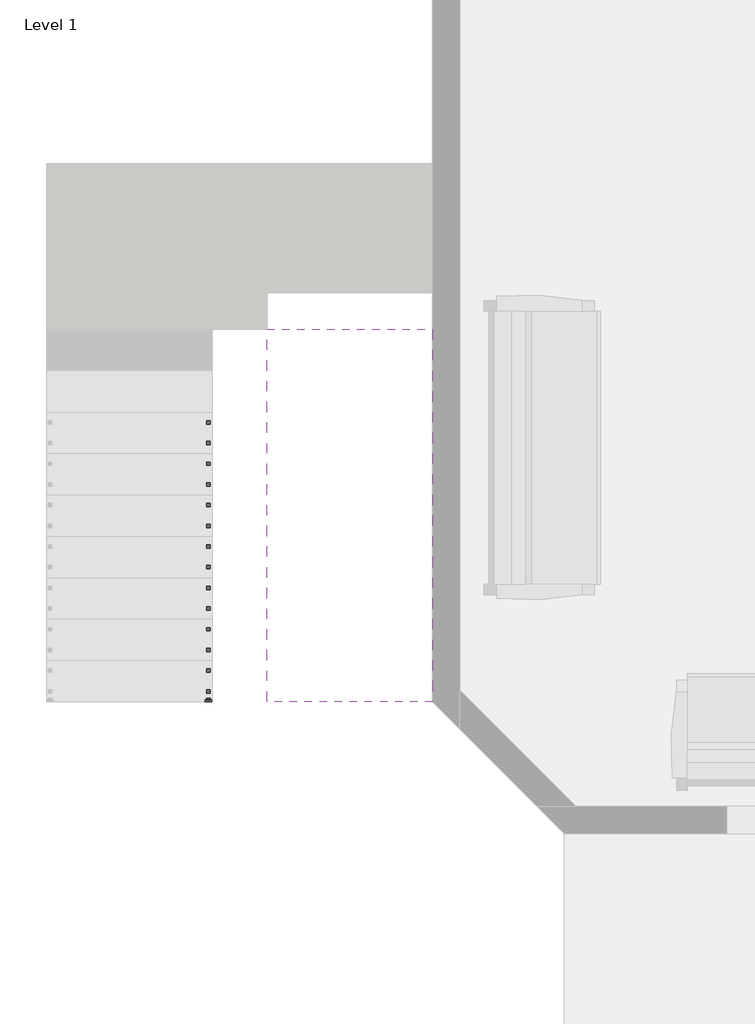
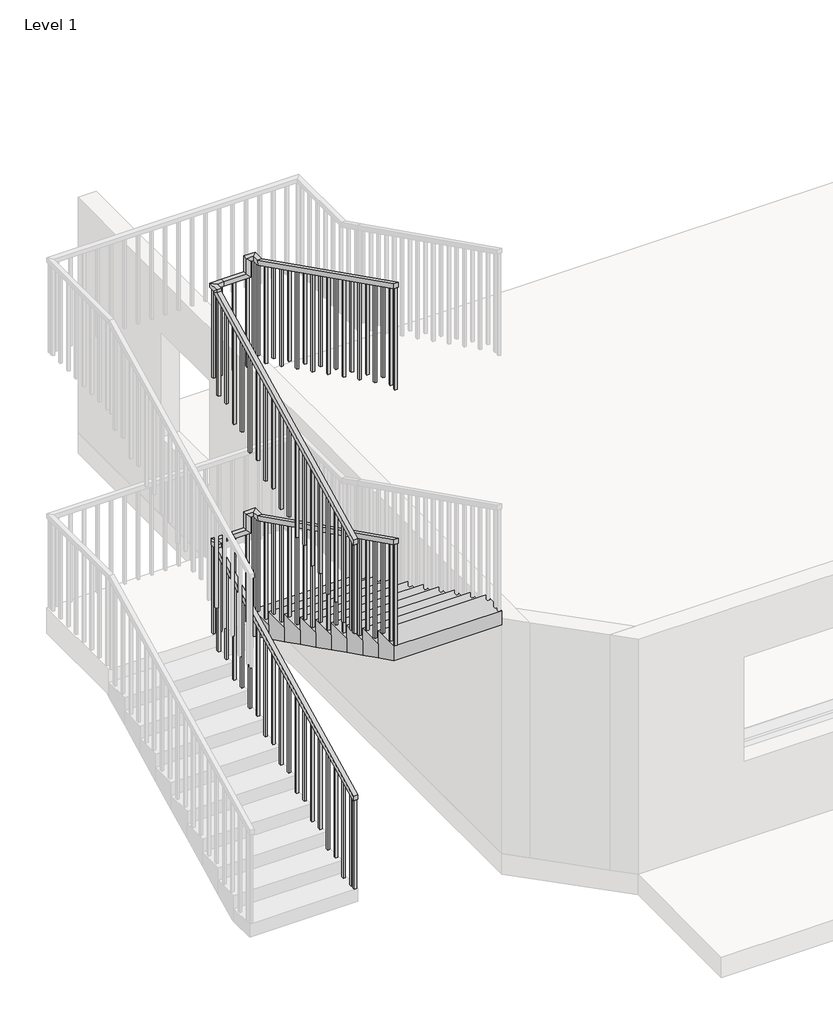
# One storey, part 2 of 4: 1 railing, 1 stair flight.
"""IFC4 building model written with IfcOpenShell, lengths in millimetres."""

import ifcopenshell
import ifcopenshell.guid

model = None  # the IFC model being written
_history = None  # IfcOwnerHistory: only IFC2X3 demands one
_inside = {}  # id of a spatial element -> (the spatial element, [elements in it])
_under = {}  # id of a project, library or spatial element -> (it, [spatial elements below it])
_declared = {}  # id of a project -> (the project, [libraries it declares])
_typed = {}  # id of a type object -> (the type object, [elements of that type])
_made_of = {}  # id of a material, layer set ... -> (it, [elements and type objects made of it])


def new_model(schema):
    """Start an empty IFC model of exactly this schema.

    Asked for "IFC4X3", IfcOpenShell would pick the latest addendum, in which some entities
    have other attributes; the version numbers below select the first issue.
    IFC2X3 requires an IfcOwnerHistory on every rooted entity: one is made here for all.
    """
    global model, _history
    if schema == "IFC4X3":
        model = ifcopenshell.file(schema_version=(4, 3, 0, 0))
    else:
        model = ifcopenshell.file(schema=schema)
    _inside.clear()
    _under.clear()
    _declared.clear()
    _typed.clear()
    _made_of.clear()
    _history = None
    if model.schema == "IFC2X3":
        org = make("IfcOrganization", Name="unknown")
        user = make(
            "IfcPersonAndOrganization",
            ThePerson=make("IfcPerson", FamilyName="unknown"),
            TheOrganization=org,
        )
        app = make(
            "IfcApplication",
            ApplicationDeveloper=org,
            Version="unknown",
            ApplicationFullName="unknown",
            ApplicationIdentifier="unknown",
        )
        _history = make(
            "IfcOwnerHistory",
            OwningUser=user,
            OwningApplication=app,
            ChangeAction="ADDED",
            CreationDate=0,
        )
    return model


def make(cls, **values):
    """One entity of the class cls with the attributes given. An attribute that is None is left unset."""
    return model.create_entity(
        cls, **{name: value for name, value in values.items() if value is not None}
    )


def rooted(cls, **values):
    """An entity with a GlobalId (a new one), such as an element, a storey or a relation."""
    return make(cls, GlobalId=ifcopenshell.guid.new(), OwnerHistory=_history, **values)


def si_unit(unit_type, name, prefix=None):
    """IfcSIUnit, for example si_unit("LENGTHUNIT", "METRE", prefix="MILLI")."""
    return make("IfcSIUnit", UnitType=unit_type, Prefix=prefix, Name=name)


def assignment(units):
    """IfcUnitAssignment: the units of a project."""
    return None if units is None else make("IfcUnitAssignment", Units=units)


def point(xyz):
    """IfcCartesianPoint."""
    return None if xyz is None else make("IfcCartesianPoint", Coordinates=xyz)


def direction(xyz):
    """IfcDirection."""
    return None if xyz is None else make("IfcDirection", DirectionRatios=xyz)


def frame(location, z_axis=None, x_axis=None):
    """IfcAxis2Placement3D, a coordinate frame: its origin and axes. An axis left out is left unset."""
    return make(
        "IfcAxis2Placement3D",
        Location=point(location),
        Axis=direction(z_axis),
        RefDirection=direction(x_axis),
    )


def origin():
    """The frame at (0, 0, 0) with its axes left unset."""
    return frame((0.0, 0.0, 0.0))


def place(relative_to, where):
    """IfcLocalPlacement: puts the frame where relative to a parent placement (None: the world)."""
    return make(
        "IfcLocalPlacement", PlacementRelTo=relative_to, RelativePlacement=where
    )


def context(
    kind, dimensions, precision=None, world=None, true_north=None, identifier=None
):
    """IfcGeometricRepresentationContext, for example the 3D "Model" context."""
    return make(
        "IfcGeometricRepresentationContext",
        ContextIdentifier=identifier,
        ContextType=kind,
        CoordinateSpaceDimension=dimensions,
        Precision=precision,
        WorldCoordinateSystem=world,
        TrueNorth=true_north,
    )


def project(units=None, contexts=None):
    """IfcProject with its units and contexts."""
    return rooted(
        "IfcProject",
        Name="project",
        RepresentationContexts=contexts,
        UnitsInContext=assignment(units),
    )


def spatial(cls, under=None, at=None, **own):
    """A site, building, storey or space (cls), placed at a placement, below another one or the project."""
    s = rooted(cls, ObjectPlacement=at, **own)
    if under is not None:
        _under.setdefault(under.id(), (under, []))[1].append(s)
    return s


def polyline(points):
    """IfcPolyline through the points."""
    return make("IfcPolyline", Points=[point(p) for p in points])


def outline(outer, holes=None, kind="AREA"):
    """IfcArbitraryClosedProfileDef: a profile drawn as a closed curve; with holes, ...WithVoids."""
    if holes is None:
        return make("IfcArbitraryClosedProfileDef", ProfileType=kind, OuterCurve=outer)
    return make(
        "IfcArbitraryProfileDefWithVoids",
        ProfileType=kind,
        OuterCurve=outer,
        InnerCurves=holes,
    )


def extrude(swept, where, along, depth):
    """IfcExtrudedAreaSolid: the profile swept, set in the frame where, extruded along a direction by depth."""
    return make(
        "IfcExtrudedAreaSolid",
        SweptArea=swept,
        Position=where,
        ExtrudedDirection=direction(along),
        Depth=depth,
    )


def faces_of(points, faces, orient=None, outer=None):
    """IfcFace entities. A face is a list of loops; a loop is a list of indices into points, from 0.

    orient and outer hold one flag for each loop. By default every Orientation is true, the
    first loop of a face is its IfcFaceOuterBound and the others are IfcFaceBound.
    """
    made = []
    for i, loops in enumerate(faces):
        bounds = []
        for j, loop in enumerate(loops):
            is_outer = j == 0 if outer is None else outer[i][j]
            bounds.append(
                make(
                    "IfcFaceOuterBound" if is_outer else "IfcFaceBound",
                    Bound=make("IfcPolyLoop", Polygon=[points[k] for k in loop]),
                    Orientation=True if orient is None else orient[i][j],
                )
            )
        made.append(make("IfcFace", Bounds=bounds))
    return made


def faceted_brep(points, faces, orient=None, outer=None, voids=None):
    """IfcFacetedBrep: a solid bounded by flat faces; with voids (closed shells), ...WithVoids."""
    shared = [point(p) for p in points]
    hull = make("IfcClosedShell", CfsFaces=faces_of(shared, faces, orient, outer))
    if voids is None:
        return make("IfcFacetedBrep", Outer=hull)
    return make(
        "IfcFacetedBrepWithVoids",
        Outer=hull,
        Voids=[
            make(cls, CfsFaces=faces_of(shared, fs, o, b)) for cls, fs, o, b in voids
        ],
    )


def shape(context_of_items, identifier, shape_type, items):
    """IfcShapeRepresentation: the items that make up one representation, for example the "Body"."""
    return make(
        "IfcShapeRepresentation",
        ContextOfItems=context_of_items,
        RepresentationIdentifier=identifier,
        RepresentationType=shape_type,
        Items=items,
    )


def made_of(thing, what):
    """Note that an element or type object is made of a material, layer set ...; save() writes the relation."""
    if what is not None:
        _made_of.setdefault(what.id(), (what, []))[1].append(thing)
    return thing


def element(
    cls,
    number,
    at=None,
    inside=None,
    cuts=None,
    type_object=None,
    material=None,
    context=None,
    identifier="Body",
    shape_type=None,
    held_by="IfcProductDefinitionShape",
    body=None,
    shapes=None,
    **own,
):
    """One element of the class cls, such as IfcWall. Its Tag is "e" and its number.

    at: its placement. inside: the storey or other place that contains it. cuts: it is an
    opening in that element (IfcRelVoidsElement). A single representation is given by context,
    identifier, shape_type and body (its items); several are given by shapes. held_by: the class
    of the entity that holds the representations. save() writes the other relations.
    """
    e = rooted(cls, Tag="e%d" % number, ObjectPlacement=at, **own)
    if body is not None:
        shapes = [shape(context, identifier, shape_type, body)]
    if shapes is not None:
        e.Representation = make(held_by, Representations=shapes)
    if inside is not None:
        _inside.setdefault(inside.id(), (inside, []))[1].append(e)
    if cuts is not None:
        rooted(
            "IfcRelVoidsElement", RelatingBuildingElement=cuts, RelatedOpeningElement=e
        )
    if type_object is not None:
        _typed.setdefault(type_object.id(), (type_object, []))[1].append(e)
    return made_of(e, material)


def aggregate(whole, parts):
    """IfcRelAggregates: a whole, such as a stair, and the parts it consists of."""
    return rooted("IfcRelAggregates", RelatingObject=whole, RelatedObjects=parts)


def save(model, path):
    """Write the relations noted so far, then the file.

    IfcRelAggregates (storeys below a building ...), IfcRelContainedInSpatialStructure (elements
    in a storey), IfcRelDefinesByType, IfcRelAssociatesMaterial and IfcRelDeclares: one each for
    every whole, place, type object, material and project.
    """
    for whole, parts in _under.values():
        aggregate(whole, parts)
    for where, things in _inside.values():
        rooted(
            "IfcRelContainedInSpatialStructure",
            RelatedElements=things,
            RelatingStructure=where,
        )
    for kind, things in _typed.values():
        rooted("IfcRelDefinesByType", RelatedObjects=things, RelatingType=kind)
    for what, things in _made_of.values():
        rooted("IfcRelAssociatesMaterial", RelatedObjects=things, RelatingMaterial=what)
    for by, libraries in _declared.values():
        rooted("IfcRelDeclares", RelatingContext=by, RelatedDefinitions=libraries)
    model.write(path)


model = new_model("IFC4")

# Units and contexts
model_context = context("Model", 3, world=origin())
ifc_project = project(units=[si_unit("LENGTHUNIT", "METRE", prefix="MILLI")], contexts=[model_context])

# Site, building, storey
site = spatial("IfcSite", under=ifc_project)
building = spatial("IfcBuilding", under=site)
storey = spatial("IfcBuildingStorey", under=building, Name="Level 1", Elevation=0.0)

# Railing
placement = place(None, origin())
element("IfcRailing", 1, ObjectType="1100mm", at=placement, inside=storey, context=model_context, shape_type="SolidModel", body=[
    faceted_brep([(-19013.3123896, -3896.853789, 4250.0000003), (-19013.3123896, -3896.853789, 4194.0983009), (-18963.3123896, -3896.853789, 4194.0983009), (-18963.3123896, -3896.853789, 4250.0000003), (-19013.3123896, -1271.453789, 5562.7000003), (-19013.3123896, -1221.453789, 5531.7983009), (-18963.3123896, -1221.453789, 5531.7983009), (-18963.3123896, -1271.453789, 5562.7000003), (-19013.3123896, -1271.453789, 5600.0000003), (-19013.3123896, -1221.453789, 5550.0000003), (-18963.3123896, -1221.453789, 5550.0000003), (-18963.3123896, -1271.453789, 5600.0000003), (-19013.3123896, -1146.453789, 5600.0000003), (-19013.3123896, -1146.453789, 5550.0000003), (-18963.3123896, -1196.453789, 5550.0000003), (-18963.3123896, -1196.453789, 5600.0000003), (-18888.3123896, -1146.453789, 5600.0000003), (-18888.3123896, -1146.453789, 5550.0000003), (-18888.3123896, -1196.453789, 5550.0000003), (-18888.3123896, -1196.453789, 5600.0000003), (-18637.5123896, -1146.453789, 5600.0000003), (-18587.5123896, -1146.453789, 5550.0000003), (-18587.5123896, -1196.453789, 5550.0000003), (-18637.5123896, -1196.453789, 5600.0000003), (-18637.5123896, -1146.453789, 5787.3000003), (-18587.5123896, -1146.453789, 5737.3000003), (-18587.5123896, -1196.453789, 5737.3000003), (-18637.5123896, -1196.453789, 5787.3000003), (-18512.5123896, -1146.453789, 5787.3000003), (-18512.5123896, -1146.453789, 5737.3000003), (-18562.5123896, -1196.453789, 5737.3000003), (-18562.5123896, -1196.453789, 5787.3000003), (-18512.5123896, -1271.453789, 5787.3000003), (-18512.5123896, -1283.2571879, 5737.3000003), (-18562.5123896, -1283.2571879, 5737.3000003), (-18562.5123896, -1271.453789, 5787.3000003), (-18512.5123896, -3896.853789, 7100.0000003), (-18562.5123896, -3896.853789, 7100.0000003), (-18562.5123896, -3896.853789, 7044.0983009), (-18512.5123896, -3896.853789, 7044.0983009)], [[[0, 1, 2, 3]], [[1, 0, 4, 5]], [[2, 1, 5, 6]], [[3, 2, 6, 7]], [[0, 3, 7, 4]], [[5, 4, 8, 9]], [[6, 5, 9, 10]], [[7, 6, 10, 11]], [[4, 7, 11, 8]], [[9, 8, 12, 13]], [[10, 9, 13, 14]], [[11, 10, 14, 15]], [[8, 11, 15, 12]], [[13, 12, 16, 17]], [[14, 13, 17, 18]], [[15, 14, 18, 19]], [[12, 15, 19, 16]], [[17, 16, 20, 21]], [[18, 17, 21, 22]], [[19, 18, 22, 23]], [[16, 19, 23, 20]], [[21, 20, 24, 25]], [[22, 21, 25, 26]], [[23, 22, 26, 27]], [[20, 23, 27, 24]], [[25, 24, 28, 29]], [[26, 25, 29, 30]], [[27, 26, 30, 31]], [[24, 27, 31, 28]], [[29, 28, 32, 33]], [[30, 29, 33, 34]], [[31, 30, 34, 35]], [[28, 31, 35, 32]], [[36, 37, 38, 39]], [[33, 32, 36, 39]], [[34, 33, 39, 38]], [[35, 34, 38, 37]], [[32, 35, 37, 36]]]),
    extrude(outline(polyline([(-3783.953789, 6987.6483009), (-3783.953789, 5850.0000003), (-3808.953789, 5850.0000003), (-3808.953789, 7000.1483009), (-3783.953789, 6987.6483009)])), frame((-18550.0123896, 0.0, 0.0), z_axis=(1.0, 0.0, 0.0), x_axis=(0.0, 1.0, 0.0)), (0.0, 0.0, 1.0), 25.0),
    extrude(outline(polyline([(-3633.953789, 6912.6483009), (-3633.953789, 5850.0000003), (-3658.953789, 5850.0000003), (-3658.953789, 6925.1483009), (-3633.953789, 6912.6483009)])), frame((-18550.0123896, 0.0, 0.0), z_axis=(1.0, 0.0, 0.0), x_axis=(0.0, 1.0, 0.0)), (0.0, 0.0, 1.0), 25.0),
    extrude(outline(polyline([(-3483.953789, 6837.6483009), (-3483.953789, 5700.0000003), (-3508.953789, 5700.0000003), (-3508.953789, 6850.1483009), (-3483.953789, 6837.6483009)])), frame((-18550.0123896, 0.0, 0.0), z_axis=(1.0, 0.0, 0.0), x_axis=(0.0, 1.0, 0.0)), (0.0, 0.0, 1.0), 25.0),
    extrude(outline(polyline([(-3333.953789, 6762.6483009), (-3333.953789, 5700.0000003), (-3358.953789, 5700.0000003), (-3358.953789, 6775.1483009), (-3333.953789, 6762.6483009)])), frame((-18550.0123896, 0.0, 0.0), z_axis=(1.0, 0.0, 0.0), x_axis=(0.0, 1.0, 0.0)), (0.0, 0.0, 1.0), 25.0),
    extrude(outline(polyline([(-3183.953789, 6687.6483009), (-3183.953789, 5550.0000003), (-3208.953789, 5550.0000003), (-3208.953789, 6700.1483009), (-3183.953789, 6687.6483009)])), frame((-18550.0123896, 0.0, 0.0), z_axis=(1.0, 0.0, 0.0), x_axis=(0.0, 1.0, 0.0)), (0.0, 0.0, 1.0), 25.0),
    extrude(outline(polyline([(-3033.953789, 6612.6483009), (-3033.953789, 5550.0000003), (-3058.953789, 5550.0000003), (-3058.953789, 6625.1483009), (-3033.953789, 6612.6483009)])), frame((-18550.0123896, 0.0, 0.0), z_axis=(1.0, 0.0, 0.0), x_axis=(0.0, 1.0, 0.0)), (0.0, 0.0, 1.0), 25.0),
    extrude(outline(polyline([(-2883.953789, 6537.6483009), (-2883.953789, 5400.0000003), (-2908.953789, 5400.0000003), (-2908.953789, 6550.1483009), (-2883.953789, 6537.6483009)])), frame((-18550.0123896, 0.0, 0.0), z_axis=(1.0, 0.0, 0.0), x_axis=(0.0, 1.0, 0.0)), (0.0, 0.0, 1.0), 25.0),
    extrude(outline(polyline([(-2733.953789, 6462.6483009), (-2733.953789, 5400.0000003), (-2758.953789, 5400.0000003), (-2758.953789, 6475.1483009), (-2733.953789, 6462.6483009)])), frame((-18550.0123896, 0.0, 0.0), z_axis=(1.0, 0.0, 0.0), x_axis=(0.0, 1.0, 0.0)), (0.0, 0.0, 1.0), 25.0),
    extrude(outline(polyline([(-2583.953789, 6387.6483009), (-2583.953789, 5250.0000003), (-2608.953789, 5250.0000003), (-2608.953789, 6400.1483009), (-2583.953789, 6387.6483009)])), frame((-18550.0123896, 0.0, 0.0), z_axis=(1.0, 0.0, 0.0), x_axis=(0.0, 1.0, 0.0)), (0.0, 0.0, 1.0), 25.0),
    extrude(outline(polyline([(-2433.953789, 6312.6483009), (-2433.953789, 5250.0000003), (-2458.953789, 5250.0000003), (-2458.953789, 6325.1483009), (-2433.953789, 6312.6483009)])), frame((-18550.0123896, 0.0, 0.0), z_axis=(1.0, 0.0, 0.0), x_axis=(0.0, 1.0, 0.0)), (0.0, 0.0, 1.0), 25.0),
    extrude(outline(polyline([(-2283.953789, 6237.6483009), (-2283.953789, 5100.0000003), (-2308.953789, 5100.0000003), (-2308.953789, 6250.1483009), (-2283.953789, 6237.6483009)])), frame((-18550.0123896, 0.0, 0.0), z_axis=(1.0, 0.0, 0.0), x_axis=(0.0, 1.0, 0.0)), (0.0, 0.0, 1.0), 25.0),
    extrude(outline(polyline([(-2133.953789, 6162.6483009), (-2133.953789, 5100.0000003), (-2158.953789, 5100.0000003), (-2158.953789, 6175.1483009), (-2133.953789, 6162.6483009)])), frame((-18550.0123896, 0.0, 0.0), z_axis=(1.0, 0.0, 0.0), x_axis=(0.0, 1.0, 0.0)), (0.0, 0.0, 1.0), 25.0),
    extrude(outline(polyline([(-1983.953789, 6087.6483009), (-1983.953789, 4950.0000003), (-2008.953789, 4950.0000003), (-2008.953789, 6100.1483009), (-1983.953789, 6087.6483009)])), frame((-18550.0123896, 0.0, 0.0), z_axis=(1.0, 0.0, 0.0), x_axis=(0.0, 1.0, 0.0)), (0.0, 0.0, 1.0), 25.0),
    extrude(outline(polyline([(-1833.953789, 6012.6483009), (-1833.953789, 4950.0000003), (-1858.953789, 4950.0000003), (-1858.953789, 6025.1483009), (-1833.953789, 6012.6483009)])), frame((-18550.0123896, 0.0, 0.0), z_axis=(1.0, 0.0, 0.0), x_axis=(0.0, 1.0, 0.0)), (0.0, 0.0, 1.0), 25.0),
    extrude(outline(polyline([(-1683.953789, 5937.6483009), (-1683.953789, 4800.0000003), (-1708.953789, 4800.0000003), (-1708.953789, 5950.1483009), (-1683.953789, 5937.6483009)])), frame((-18550.0123896, 0.0, 0.0), z_axis=(1.0, 0.0, 0.0), x_axis=(0.0, 1.0, 0.0)), (0.0, 0.0, 1.0), 25.0),
    extrude(outline(polyline([(-1533.953789, 5862.6483009), (-1533.953789, 4800.0000003), (-1558.953789, 4800.0000003), (-1558.953789, 5875.1483009), (-1533.953789, 5862.6483009)])), frame((-18550.0123896, 0.0, 0.0), z_axis=(1.0, 0.0, 0.0), x_axis=(0.0, 1.0, 0.0)), (0.0, 0.0, 1.0), 25.0),
    extrude(outline(polyline([(-1383.953789, 5787.6483009), (-1383.953789, 4650.0000003), (-1408.953789, 4650.0000003), (-1408.953789, 5800.1483009), (-1383.953789, 5787.6483009)])), frame((-18550.0123896, 0.0, 0.0), z_axis=(1.0, 0.0, 0.0), x_axis=(0.0, 1.0, 0.0)), (0.0, 0.0, 1.0), 25.0),
    extrude(outline(polyline([(-18550.0123896, -1233.953789), (-18525.0123896, -1233.953789), (-18525.0123896, -1258.953789), (-18550.0123896, -1258.953789), (-18550.0123896, -1233.953789)])), frame((0.0, 0.0, 4650.0000003), z_axis=(0.0, 0.0, 1.0), x_axis=(1.0, 0.0, 0.0)), (0.0, 0.0, 1.0), 1087.3),
    extrude(outline(polyline([(-18625.8123896, -1183.953789), (-18625.8123896, -1158.953789), (-18600.8123896, -1158.953789), (-18600.8123896, -1183.953789), (-18625.8123896, -1183.953789)])), frame((0.0, 0.0, 4500.0000003), z_axis=(0.0, 0.0, 1.0), x_axis=(1.0, 0.0, 0.0)), (0.0, 0.0, 1.0), 1237.3),
    extrude(outline(polyline([(-18775.8123896, -1183.953789), (-18775.8123896, -1158.953789), (-18750.8123896, -1158.953789), (-18750.8123896, -1183.953789), (-18775.8123896, -1183.953789)])), frame((0.0, 0.0, 4500.0000003), z_axis=(0.0, 0.0, 1.0), x_axis=(1.0, 0.0, 0.0)), (0.0, 0.0, 1.0), 1050.0),
    extrude(outline(polyline([(-18925.8123896, -1183.953789), (-18925.8123896, -1158.953789), (-18900.8123896, -1158.953789), (-18900.8123896, -1183.953789), (-18925.8123896, -1183.953789)])), frame((0.0, 0.0, 4500.0000003), z_axis=(0.0, 0.0, 1.0), x_axis=(1.0, 0.0, 0.0)), (0.0, 0.0, 1.0), 1050.0),
    extrude(outline(polyline([(-1284.353789, 4350.0000003), (-1284.353789, 5500.3483009), (-1259.353789, 5512.8483009), (-1259.353789, 4350.0000003), (-1284.353789, 4350.0000003)])), frame((-19000.8123896, 0.0, 0.0), z_axis=(1.0, 0.0, 0.0), x_axis=(0.0, 1.0, 0.0)), (0.0, 0.0, 1.0), 25.0),
    extrude(outline(polyline([(-1434.353789, 4350.0000003), (-1434.353789, 5425.3483009), (-1409.353789, 5437.8483009), (-1409.353789, 4350.0000003), (-1434.353789, 4350.0000003)])), frame((-19000.8123896, 0.0, 0.0), z_axis=(1.0, 0.0, 0.0), x_axis=(0.0, 1.0, 0.0)), (0.0, 0.0, 1.0), 25.0),
    extrude(outline(polyline([(-1584.353789, 4200.0000003), (-1584.353789, 5350.3483009), (-1559.353789, 5362.8483009), (-1559.353789, 4200.0000003), (-1584.353789, 4200.0000003)])), frame((-19000.8123896, 0.0, 0.0), z_axis=(1.0, 0.0, 0.0), x_axis=(0.0, 1.0, 0.0)), (0.0, 0.0, 1.0), 25.0),
    extrude(outline(polyline([(-1734.353789, 4200.0000003), (-1734.353789, 5275.3483009), (-1709.353789, 5287.8483009), (-1709.353789, 4200.0000003), (-1734.353789, 4200.0000003)])), frame((-19000.8123896, 0.0, 0.0), z_axis=(1.0, 0.0, 0.0), x_axis=(0.0, 1.0, 0.0)), (0.0, 0.0, 1.0), 25.0),
    extrude(outline(polyline([(-1884.353789, 4050.0000003), (-1884.353789, 5200.3483009), (-1859.353789, 5212.8483009), (-1859.353789, 4050.0000003), (-1884.353789, 4050.0000003)])), frame((-19000.8123896, 0.0, 0.0), z_axis=(1.0, 0.0, 0.0), x_axis=(0.0, 1.0, 0.0)), (0.0, 0.0, 1.0), 25.0),
    extrude(outline(polyline([(-2034.353789, 4050.0000003), (-2034.353789, 5125.3483009), (-2009.353789, 5137.8483009), (-2009.353789, 4050.0000003), (-2034.353789, 4050.0000003)])), frame((-19000.8123896, 0.0, 0.0), z_axis=(1.0, 0.0, 0.0), x_axis=(0.0, 1.0, 0.0)), (0.0, 0.0, 1.0), 25.0),
    extrude(outline(polyline([(-2184.353789, 3900.0000003), (-2184.353789, 5050.3483009), (-2159.353789, 5062.8483009), (-2159.353789, 3900.0000003), (-2184.353789, 3900.0000003)])), frame((-19000.8123896, 0.0, 0.0), z_axis=(1.0, 0.0, 0.0), x_axis=(0.0, 1.0, 0.0)), (0.0, 0.0, 1.0), 25.0),
    extrude(outline(polyline([(-2334.353789, 3900.0000003), (-2334.353789, 4975.3483009), (-2309.353789, 4987.8483009), (-2309.353789, 3900.0000003), (-2334.353789, 3900.0000003)])), frame((-19000.8123896, 0.0, 0.0), z_axis=(1.0, 0.0, 0.0), x_axis=(0.0, 1.0, 0.0)), (0.0, 0.0, 1.0), 25.0),
    extrude(outline(polyline([(-2484.353789, 3750.0000003), (-2484.353789, 4900.3483009), (-2459.353789, 4912.8483009), (-2459.353789, 3750.0000003), (-2484.353789, 3750.0000003)])), frame((-19000.8123896, 0.0, 0.0), z_axis=(1.0, 0.0, 0.0), x_axis=(0.0, 1.0, 0.0)), (0.0, 0.0, 1.0), 25.0),
    extrude(outline(polyline([(-2634.353789, 3750.0000003), (-2634.353789, 4825.3483009), (-2609.353789, 4837.8483009), (-2609.353789, 3750.0000003), (-2634.353789, 3750.0000003)])), frame((-19000.8123896, 0.0, 0.0), z_axis=(1.0, 0.0, 0.0), x_axis=(0.0, 1.0, 0.0)), (0.0, 0.0, 1.0), 25.0),
    extrude(outline(polyline([(-2784.353789, 3600.0000003), (-2784.353789, 4750.3483009), (-2759.353789, 4762.8483009), (-2759.353789, 3600.0000003), (-2784.353789, 3600.0000003)])), frame((-19000.8123896, 0.0, 0.0), z_axis=(1.0, 0.0, 0.0), x_axis=(0.0, 1.0, 0.0)), (0.0, 0.0, 1.0), 25.0),
    extrude(outline(polyline([(-2934.353789, 3600.0000003), (-2934.353789, 4675.3483009), (-2909.353789, 4687.8483009), (-2909.353789, 3600.0000003), (-2934.353789, 3600.0000003)])), frame((-19000.8123896, 0.0, 0.0), z_axis=(1.0, 0.0, 0.0), x_axis=(0.0, 1.0, 0.0)), (0.0, 0.0, 1.0), 25.0),
    extrude(outline(polyline([(-3084.353789, 3450.0000003), (-3084.353789, 4600.3483009), (-3059.353789, 4612.8483009), (-3059.353789, 3450.0000003), (-3084.353789, 3450.0000003)])), frame((-19000.8123896, 0.0, 0.0), z_axis=(1.0, 0.0, 0.0), x_axis=(0.0, 1.0, 0.0)), (0.0, 0.0, 1.0), 25.0),
    extrude(outline(polyline([(-3234.353789, 3450.0000003), (-3234.353789, 4525.3483009), (-3209.353789, 4537.8483009), (-3209.353789, 3450.0000003), (-3234.353789, 3450.0000003)])), frame((-19000.8123896, 0.0, 0.0), z_axis=(1.0, 0.0, 0.0), x_axis=(0.0, 1.0, 0.0)), (0.0, 0.0, 1.0), 25.0),
    extrude(outline(polyline([(-3384.353789, 3300.0000003), (-3384.353789, 4450.3483009), (-3359.353789, 4462.8483009), (-3359.353789, 3300.0000003), (-3384.353789, 3300.0000003)])), frame((-19000.8123896, 0.0, 0.0), z_axis=(1.0, 0.0, 0.0), x_axis=(0.0, 1.0, 0.0)), (0.0, 0.0, 1.0), 25.0),
    extrude(outline(polyline([(-3534.353789, 3300.0000003), (-3534.353789, 4375.3483009), (-3509.353789, 4387.8483009), (-3509.353789, 3300.0000003), (-3534.353789, 3300.0000003)])), frame((-19000.8123896, 0.0, 0.0), z_axis=(1.0, 0.0, 0.0), x_axis=(0.0, 1.0, 0.0)), (0.0, 0.0, 1.0), 25.0),
    extrude(outline(polyline([(-3684.353789, 3150.0000003), (-3684.353789, 4300.3483009), (-3659.353789, 4312.8483009), (-3659.353789, 3150.0000003), (-3684.353789, 3150.0000003)])), frame((-19000.8123896, 0.0, 0.0), z_axis=(1.0, 0.0, 0.0), x_axis=(0.0, 1.0, 0.0)), (0.0, 0.0, 1.0), 25.0),
    extrude(outline(polyline([(-3834.353789, 3150.0000003), (-3834.353789, 4225.3483009), (-3809.353789, 4237.8483009), (-3809.353789, 3150.0000003), (-3834.353789, 3150.0000003)])), frame((-19000.8123896, 0.0, 0.0), z_axis=(1.0, 0.0, 0.0), x_axis=(0.0, 1.0, 0.0)), (0.0, 0.0, 1.0), 25.0),
    extrude(outline(polyline([(-18550.0123896, -1183.953789), (-18550.0123896, -1158.953789), (-18525.0123896, -1158.953789), (-18525.0123896, -1183.953789), (-18550.0123896, -1183.953789)])), frame((0.0, 0.0, 4500.0000003), z_axis=(0.0, 0.0, 1.0), x_axis=(1.0, 0.0, 0.0)), (0.0, 0.0, 1.0), 1237.3),
    extrude(outline(polyline([(-18975.8123896, -1183.953789), (-19000.8123896, -1183.953789), (-19000.8123896, -1158.953789), (-18975.8123896, -1158.953789), (-18975.8123896, -1183.953789)])), frame((0.0, 0.0, 4500.0000003), z_axis=(0.0, 0.0, 1.0), x_axis=(1.0, 0.0, 0.0)), (0.0, 0.0, 1.0), 1050.0),
    extrude(outline(polyline([(-3871.853789, 7031.5983009), (-3871.853789, 5850.0000003), (-3896.853789, 5850.0000003), (-3896.853789, 7044.0983009), (-3871.853789, 7031.5983009)])), frame((-18550.0123896, 0.0, 0.0), z_axis=(1.0, 0.0, 0.0), x_axis=(0.0, 1.0, 0.0)), (0.0, 0.0, 1.0), 25.0),
    extrude(outline(polyline([(-3896.853789, 3150.0000003), (-3896.853789, 4194.0983009), (-3871.853789, 4206.5983009), (-3871.853789, 3150.0000003), (-3896.853789, 3150.0000003)])), frame((-19000.8123896, 0.0, 0.0), z_axis=(1.0, 0.0, 0.0), x_axis=(0.0, 1.0, 0.0)), (0.0, 0.0, 1.0), 25.0),
    faceted_brep([(-19013.3123896, -3896.853789, 1250.0), (-19013.3123896, -3896.853789, 1194.0983006), (-18963.3123896, -3896.853789, 1194.0983006), (-18963.3123896, -3896.853789, 1250.0), (-19013.3123896, -1271.453789, 2562.7), (-19013.3123896, -1221.453789, 2531.7983006), (-18963.3123896, -1221.453789, 2531.7983006), (-18963.3123896, -1271.453789, 2562.7), (-19013.3123896, -1271.453789, 2600.0), (-19013.3123896, -1221.453789, 2550.0), (-18963.3123896, -1221.453789, 2550.0), (-18963.3123896, -1271.453789, 2600.0), (-19013.3123896, -1146.453789, 2600.0), (-19013.3123896, -1146.453789, 2550.0), (-18963.3123896, -1196.453789, 2550.0), (-18963.3123896, -1196.453789, 2600.0), (-18888.3123896, -1146.453789, 2600.0), (-18888.3123896, -1146.453789, 2550.0), (-18888.3123896, -1196.453789, 2550.0), (-18888.3123896, -1196.453789, 2600.0), (-18637.5123896, -1146.453789, 2600.0), (-18587.5123896, -1146.453789, 2550.0), (-18587.5123896, -1196.453789, 2550.0), (-18637.5123896, -1196.453789, 2600.0), (-18637.5123896, -1146.453789, 2787.3), (-18587.5123896, -1146.453789, 2737.3), (-18587.5123896, -1196.453789, 2737.3), (-18637.5123896, -1196.453789, 2787.3), (-18512.5123896, -1146.453789, 2787.3), (-18512.5123896, -1146.453789, 2737.3), (-18562.5123896, -1196.453789, 2737.3), (-18562.5123896, -1196.453789, 2787.3), (-18512.5123896, -1271.453789, 2787.3), (-18512.5123896, -1283.2571879, 2737.3), (-18562.5123896, -1283.2571879, 2737.3), (-18562.5123896, -1271.453789, 2787.3), (-18512.5123896, -3896.853789, 4100.0), (-18562.5123896, -3896.853789, 4100.0), (-18562.5123896, -3896.853789, 4044.0983006), (-18512.5123896, -3896.853789, 4044.0983006)], [[[0, 1, 2, 3]], [[1, 0, 4, 5]], [[2, 1, 5, 6]], [[3, 2, 6, 7]], [[0, 3, 7, 4]], [[5, 4, 8, 9]], [[6, 5, 9, 10]], [[7, 6, 10, 11]], [[4, 7, 11, 8]], [[9, 8, 12, 13]], [[10, 9, 13, 14]], [[11, 10, 14, 15]], [[8, 11, 15, 12]], [[13, 12, 16, 17]], [[14, 13, 17, 18]], [[15, 14, 18, 19]], [[12, 15, 19, 16]], [[17, 16, 20, 21]], [[18, 17, 21, 22]], [[19, 18, 22, 23]], [[16, 19, 23, 20]], [[21, 20, 24, 25]], [[22, 21, 25, 26]], [[23, 22, 26, 27]], [[20, 23, 27, 24]], [[25, 24, 28, 29]], [[26, 25, 29, 30]], [[27, 26, 30, 31]], [[24, 27, 31, 28]], [[29, 28, 32, 33]], [[30, 29, 33, 34]], [[31, 30, 34, 35]], [[28, 31, 35, 32]], [[36, 37, 38, 39]], [[33, 32, 36, 39]], [[34, 33, 39, 38]], [[35, 34, 38, 37]], [[32, 35, 37, 36]]]),
    extrude(outline(polyline([(-3783.953789, 3987.6483006), (-3783.953789, 2850.0), (-3808.953789, 2850.0), (-3808.953789, 4000.1483006), (-3783.953789, 3987.6483006)])), frame((-18550.0123896, 0.0, 0.0), z_axis=(1.0, 0.0, 0.0), x_axis=(0.0, 1.0, 0.0)), (0.0, 0.0, 1.0), 25.0),
    extrude(outline(polyline([(-3633.953789, 3912.6483006), (-3633.953789, 2850.0), (-3658.953789, 2850.0), (-3658.953789, 3925.1483006), (-3633.953789, 3912.6483006)])), frame((-18550.0123896, 0.0, 0.0), z_axis=(1.0, 0.0, 0.0), x_axis=(0.0, 1.0, 0.0)), (0.0, 0.0, 1.0), 25.0),
    extrude(outline(polyline([(-3483.953789, 3837.6483006), (-3483.953789, 2700.0), (-3508.953789, 2700.0), (-3508.953789, 3850.1483006), (-3483.953789, 3837.6483006)])), frame((-18550.0123896, 0.0, 0.0), z_axis=(1.0, 0.0, 0.0), x_axis=(0.0, 1.0, 0.0)), (0.0, 0.0, 1.0), 25.0),
    extrude(outline(polyline([(-3333.953789, 3762.6483006), (-3333.953789, 2700.0), (-3358.953789, 2700.0), (-3358.953789, 3775.1483006), (-3333.953789, 3762.6483006)])), frame((-18550.0123896, 0.0, 0.0), z_axis=(1.0, 0.0, 0.0), x_axis=(0.0, 1.0, 0.0)), (0.0, 0.0, 1.0), 25.0),
    extrude(outline(polyline([(-3183.953789, 3687.6483006), (-3183.953789, 2550.0), (-3208.953789, 2550.0), (-3208.953789, 3700.1483006), (-3183.953789, 3687.6483006)])), frame((-18550.0123896, 0.0, 0.0), z_axis=(1.0, 0.0, 0.0), x_axis=(0.0, 1.0, 0.0)), (0.0, 0.0, 1.0), 25.0),
    extrude(outline(polyline([(-3033.953789, 3612.6483006), (-3033.953789, 2550.0), (-3058.953789, 2550.0), (-3058.953789, 3625.1483006), (-3033.953789, 3612.6483006)])), frame((-18550.0123896, 0.0, 0.0), z_axis=(1.0, 0.0, 0.0), x_axis=(0.0, 1.0, 0.0)), (0.0, 0.0, 1.0), 25.0),
    extrude(outline(polyline([(-2883.953789, 3537.6483006), (-2883.953789, 2400.0), (-2908.953789, 2400.0), (-2908.953789, 3550.1483006), (-2883.953789, 3537.6483006)])), frame((-18550.0123896, 0.0, 0.0), z_axis=(1.0, 0.0, 0.0), x_axis=(0.0, 1.0, 0.0)), (0.0, 0.0, 1.0), 25.0),
    extrude(outline(polyline([(-2733.953789, 3462.6483006), (-2733.953789, 2400.0), (-2758.953789, 2400.0), (-2758.953789, 3475.1483006), (-2733.953789, 3462.6483006)])), frame((-18550.0123896, 0.0, 0.0), z_axis=(1.0, 0.0, 0.0), x_axis=(0.0, 1.0, 0.0)), (0.0, 0.0, 1.0), 25.0),
    extrude(outline(polyline([(-2583.953789, 3387.6483006), (-2583.953789, 2250.0), (-2608.953789, 2250.0), (-2608.953789, 3400.1483006), (-2583.953789, 3387.6483006)])), frame((-18550.0123896, 0.0, 0.0), z_axis=(1.0, 0.0, 0.0), x_axis=(0.0, 1.0, 0.0)), (0.0, 0.0, 1.0), 25.0),
    extrude(outline(polyline([(-2433.953789, 3312.6483006), (-2433.953789, 2250.0), (-2458.953789, 2250.0), (-2458.953789, 3325.1483006), (-2433.953789, 3312.6483006)])), frame((-18550.0123896, 0.0, 0.0), z_axis=(1.0, 0.0, 0.0), x_axis=(0.0, 1.0, 0.0)), (0.0, 0.0, 1.0), 25.0),
    extrude(outline(polyline([(-2283.953789, 3237.6483006), (-2283.953789, 2100.0), (-2308.953789, 2100.0), (-2308.953789, 3250.1483006), (-2283.953789, 3237.6483006)])), frame((-18550.0123896, 0.0, 0.0), z_axis=(1.0, 0.0, 0.0), x_axis=(0.0, 1.0, 0.0)), (0.0, 0.0, 1.0), 25.0),
    extrude(outline(polyline([(-2133.953789, 3162.6483006), (-2133.953789, 2100.0), (-2158.953789, 2100.0), (-2158.953789, 3175.1483006), (-2133.953789, 3162.6483006)])), frame((-18550.0123896, 0.0, 0.0), z_axis=(1.0, 0.0, 0.0), x_axis=(0.0, 1.0, 0.0)), (0.0, 0.0, 1.0), 25.0),
    extrude(outline(polyline([(-1983.953789, 3087.6483006), (-1983.953789, 1950.0), (-2008.953789, 1950.0), (-2008.953789, 3100.1483006), (-1983.953789, 3087.6483006)])), frame((-18550.0123896, 0.0, 0.0), z_axis=(1.0, 0.0, 0.0), x_axis=(0.0, 1.0, 0.0)), (0.0, 0.0, 1.0), 25.0),
    extrude(outline(polyline([(-1833.953789, 3012.6483006), (-1833.953789, 1950.0), (-1858.953789, 1950.0), (-1858.953789, 3025.1483006), (-1833.953789, 3012.6483006)])), frame((-18550.0123896, 0.0, 0.0), z_axis=(1.0, 0.0, 0.0), x_axis=(0.0, 1.0, 0.0)), (0.0, 0.0, 1.0), 25.0),
    extrude(outline(polyline([(-1683.953789, 2937.6483006), (-1683.953789, 1800.0), (-1708.953789, 1800.0), (-1708.953789, 2950.1483006), (-1683.953789, 2937.6483006)])), frame((-18550.0123896, 0.0, 0.0), z_axis=(1.0, 0.0, 0.0), x_axis=(0.0, 1.0, 0.0)), (0.0, 0.0, 1.0), 25.0),
    extrude(outline(polyline([(-1533.953789, 2862.6483006), (-1533.953789, 1800.0), (-1558.953789, 1800.0), (-1558.953789, 2875.1483006), (-1533.953789, 2862.6483006)])), frame((-18550.0123896, 0.0, 0.0), z_axis=(1.0, 0.0, 0.0), x_axis=(0.0, 1.0, 0.0)), (0.0, 0.0, 1.0), 25.0),
    extrude(outline(polyline([(-1383.953789, 2787.6483006), (-1383.953789, 1650.0), (-1408.953789, 1650.0), (-1408.953789, 2800.1483006), (-1383.953789, 2787.6483006)])), frame((-18550.0123896, 0.0, 0.0), z_axis=(1.0, 0.0, 0.0), x_axis=(0.0, 1.0, 0.0)), (0.0, 0.0, 1.0), 25.0),
    extrude(outline(polyline([(-18550.0123896, -1233.953789), (-18525.0123896, -1233.953789), (-18525.0123896, -1258.953789), (-18550.0123896, -1258.953789), (-18550.0123896, -1233.953789)])), frame((0.0, 0.0, 1650.0), z_axis=(0.0, 0.0, 1.0), x_axis=(1.0, 0.0, 0.0)), (0.0, 0.0, 1.0), 1087.3),
    extrude(outline(polyline([(-18625.8123896, -1183.953789), (-18625.8123896, -1158.953789), (-18600.8123896, -1158.953789), (-18600.8123896, -1183.953789), (-18625.8123896, -1183.953789)])), frame((0.0, 0.0, 1500.0), z_axis=(0.0, 0.0, 1.0), x_axis=(1.0, 0.0, 0.0)), (0.0, 0.0, 1.0), 1237.3),
    extrude(outline(polyline([(-18775.8123896, -1183.953789), (-18775.8123896, -1158.953789), (-18750.8123896, -1158.953789), (-18750.8123896, -1183.953789), (-18775.8123896, -1183.953789)])), frame((0.0, 0.0, 1500.0), z_axis=(0.0, 0.0, 1.0), x_axis=(1.0, 0.0, 0.0)), (0.0, 0.0, 1.0), 1050.0),
    extrude(outline(polyline([(-18925.8123896, -1183.953789), (-18925.8123896, -1158.953789), (-18900.8123896, -1158.953789), (-18900.8123896, -1183.953789), (-18925.8123896, -1183.953789)])), frame((0.0, 0.0, 1500.0), z_axis=(0.0, 0.0, 1.0), x_axis=(1.0, 0.0, 0.0)), (0.0, 0.0, 1.0), 1050.0),
    extrude(outline(polyline([(-1284.353789, 1350.0), (-1284.353789, 2500.3483006), (-1259.353789, 2512.8483006), (-1259.353789, 1350.0), (-1284.353789, 1350.0)])), frame((-19000.8123896, 0.0, 0.0), z_axis=(1.0, 0.0, 0.0), x_axis=(0.0, 1.0, 0.0)), (0.0, 0.0, 1.0), 25.0),
    extrude(outline(polyline([(-1434.353789, 1350.0), (-1434.353789, 2425.3483006), (-1409.353789, 2437.8483006), (-1409.353789, 1350.0), (-1434.353789, 1350.0)])), frame((-19000.8123896, 0.0, 0.0), z_axis=(1.0, 0.0, 0.0), x_axis=(0.0, 1.0, 0.0)), (0.0, 0.0, 1.0), 25.0),
    extrude(outline(polyline([(-1584.353789, 1200.0), (-1584.353789, 2350.3483006), (-1559.353789, 2362.8483006), (-1559.353789, 1200.0), (-1584.353789, 1200.0)])), frame((-19000.8123896, 0.0, 0.0), z_axis=(1.0, 0.0, 0.0), x_axis=(0.0, 1.0, 0.0)), (0.0, 0.0, 1.0), 25.0),
    extrude(outline(polyline([(-1734.353789, 1200.0), (-1734.353789, 2275.3483006), (-1709.353789, 2287.8483006), (-1709.353789, 1200.0), (-1734.353789, 1200.0)])), frame((-19000.8123896, 0.0, 0.0), z_axis=(1.0, 0.0, 0.0), x_axis=(0.0, 1.0, 0.0)), (0.0, 0.0, 1.0), 25.0),
    extrude(outline(polyline([(-1884.353789, 1050.0), (-1884.353789, 2200.3483006), (-1859.353789, 2212.8483006), (-1859.353789, 1050.0), (-1884.353789, 1050.0)])), frame((-19000.8123896, 0.0, 0.0), z_axis=(1.0, 0.0, 0.0), x_axis=(0.0, 1.0, 0.0)), (0.0, 0.0, 1.0), 25.0),
    extrude(outline(polyline([(-2034.353789, 1050.0), (-2034.353789, 2125.3483006), (-2009.353789, 2137.8483006), (-2009.353789, 1050.0), (-2034.353789, 1050.0)])), frame((-19000.8123896, 0.0, 0.0), z_axis=(1.0, 0.0, 0.0), x_axis=(0.0, 1.0, 0.0)), (0.0, 0.0, 1.0), 25.0),
    extrude(outline(polyline([(-2184.353789, 900.0), (-2184.353789, 2050.3483006), (-2159.353789, 2062.8483006), (-2159.353789, 900.0), (-2184.353789, 900.0)])), frame((-19000.8123896, 0.0, 0.0), z_axis=(1.0, 0.0, 0.0), x_axis=(0.0, 1.0, 0.0)), (0.0, 0.0, 1.0), 25.0),
    extrude(outline(polyline([(-2334.353789, 900.0), (-2334.353789, 1975.3483006), (-2309.353789, 1987.8483006), (-2309.353789, 900.0), (-2334.353789, 900.0)])), frame((-19000.8123896, 0.0, 0.0), z_axis=(1.0, 0.0, 0.0), x_axis=(0.0, 1.0, 0.0)), (0.0, 0.0, 1.0), 25.0),
    extrude(outline(polyline([(-2484.353789, 750.0), (-2484.353789, 1900.3483006), (-2459.353789, 1912.8483006), (-2459.353789, 750.0), (-2484.353789, 750.0)])), frame((-19000.8123896, 0.0, 0.0), z_axis=(1.0, 0.0, 0.0), x_axis=(0.0, 1.0, 0.0)), (0.0, 0.0, 1.0), 25.0),
    extrude(outline(polyline([(-2634.353789, 750.0), (-2634.353789, 1825.3483006), (-2609.353789, 1837.8483006), (-2609.353789, 750.0), (-2634.353789, 750.0)])), frame((-19000.8123896, 0.0, 0.0), z_axis=(1.0, 0.0, 0.0), x_axis=(0.0, 1.0, 0.0)), (0.0, 0.0, 1.0), 25.0),
    extrude(outline(polyline([(-2784.353789, 600.0), (-2784.353789, 1750.3483006), (-2759.353789, 1762.8483006), (-2759.353789, 600.0), (-2784.353789, 600.0)])), frame((-19000.8123896, 0.0, 0.0), z_axis=(1.0, 0.0, 0.0), x_axis=(0.0, 1.0, 0.0)), (0.0, 0.0, 1.0), 25.0),
    extrude(outline(polyline([(-2934.353789, 600.0), (-2934.353789, 1675.3483006), (-2909.353789, 1687.8483006), (-2909.353789, 600.0), (-2934.353789, 600.0)])), frame((-19000.8123896, 0.0, 0.0), z_axis=(1.0, 0.0, 0.0), x_axis=(0.0, 1.0, 0.0)), (0.0, 0.0, 1.0), 25.0),
    extrude(outline(polyline([(-3084.353789, 450.0), (-3084.353789, 1600.3483006), (-3059.353789, 1612.8483006), (-3059.353789, 450.0), (-3084.353789, 450.0)])), frame((-19000.8123896, 0.0, 0.0), z_axis=(1.0, 0.0, 0.0), x_axis=(0.0, 1.0, 0.0)), (0.0, 0.0, 1.0), 25.0),
    extrude(outline(polyline([(-3234.353789, 450.0), (-3234.353789, 1525.3483006), (-3209.353789, 1537.8483006), (-3209.353789, 450.0), (-3234.353789, 450.0)])), frame((-19000.8123896, 0.0, 0.0), z_axis=(1.0, 0.0, 0.0), x_axis=(0.0, 1.0, 0.0)), (0.0, 0.0, 1.0), 25.0),
    extrude(outline(polyline([(-3384.353789, 300.0), (-3384.353789, 1450.3483006), (-3359.353789, 1462.8483006), (-3359.353789, 300.0), (-3384.353789, 300.0)])), frame((-19000.8123896, 0.0, 0.0), z_axis=(1.0, 0.0, 0.0), x_axis=(0.0, 1.0, 0.0)), (0.0, 0.0, 1.0), 25.0),
    extrude(outline(polyline([(-3534.353789, 300.0), (-3534.353789, 1375.3483006), (-3509.353789, 1387.8483006), (-3509.353789, 300.0), (-3534.353789, 300.0)])), frame((-19000.8123896, 0.0, 0.0), z_axis=(1.0, 0.0, 0.0), x_axis=(0.0, 1.0, 0.0)), (0.0, 0.0, 1.0), 25.0),
    extrude(outline(polyline([(-3684.353789, 150.0), (-3684.353789, 1300.3483006), (-3659.353789, 1312.8483006), (-3659.353789, 150.0), (-3684.353789, 150.0)])), frame((-19000.8123896, 0.0, 0.0), z_axis=(1.0, 0.0, 0.0), x_axis=(0.0, 1.0, 0.0)), (0.0, 0.0, 1.0), 25.0),
    extrude(outline(polyline([(-3834.353789, 150.0), (-3834.353789, 1225.3483006), (-3809.353789, 1237.8483006), (-3809.353789, 150.0), (-3834.353789, 150.0)])), frame((-19000.8123896, 0.0, 0.0), z_axis=(1.0, 0.0, 0.0), x_axis=(0.0, 1.0, 0.0)), (0.0, 0.0, 1.0), 25.0),
    extrude(outline(polyline([(-18550.0123896, -1183.953789), (-18550.0123896, -1158.953789), (-18525.0123896, -1158.953789), (-18525.0123896, -1183.953789), (-18550.0123896, -1183.953789)])), frame((0.0, 0.0, 1500.0), z_axis=(0.0, 0.0, 1.0), x_axis=(1.0, 0.0, 0.0)), (0.0, 0.0, 1.0), 1237.3),
    extrude(outline(polyline([(-18975.8123896, -1183.953789), (-19000.8123896, -1183.953789), (-19000.8123896, -1158.953789), (-18975.8123896, -1158.953789), (-18975.8123896, -1183.953789)])), frame((0.0, 0.0, 1500.0), z_axis=(0.0, 0.0, 1.0), x_axis=(1.0, 0.0, 0.0)), (0.0, 0.0, 1.0), 1050.0),
    extrude(outline(polyline([(-3871.853789, 4031.5983006), (-3871.853789, 2850.0), (-3896.853789, 2850.0), (-3896.853789, 4044.0983006), (-3871.853789, 4031.5983006)])), frame((-18550.0123896, 0.0, 0.0), z_axis=(1.0, 0.0, 0.0), x_axis=(0.0, 1.0, 0.0)), (0.0, 0.0, 1.0), 25.0),
    extrude(outline(polyline([(-3896.853789, 150.0), (-3896.853789, 1194.0983006), (-3871.853789, 1206.5983006), (-3871.853789, 150.0), (-3896.853789, 150.0)])), frame((-19000.8123896, 0.0, 0.0), z_axis=(1.0, 0.0, 0.0), x_axis=(0.0, 1.0, 0.0)), (0.0, 0.0, 1.0), 25.0),
])

# Stair flight
element("IfcStairFlight", 2, ObjectType="150mm Depth", at=placement, inside=storey, context=model_context, shape_type="Brep", body=[
    faceted_brep([(-17362.9123896, -1496.853789, 1650.0), (-17362.9123896, -1196.853789, 1650.0), (-18562.9123896, -1196.853789, 1650.0), (-18562.9123896, -1496.853789, 1650.0), (-17362.9123896, -1496.853789, 1482.2949017), (-17362.9123896, -1196.853789, 1332.2949017), (-17362.9123896, -1196.853789, 1500.0), (-18562.9123896, -1196.853789, 1332.2949017), (-18562.9123896, -1496.853789, 1482.2949017), (-17362.9123896, -1796.853789, 1800.0), (-17362.9123896, -1496.853789, 1800.0), (-18562.9123896, -1496.853789, 1800.0), (-18562.9123896, -1796.853789, 1800.0), (-17362.9123896, -1796.853789, 1632.2949017), (-18562.9123896, -1796.853789, 1632.2949017), (-17362.9123896, -2096.853789, 1950.0), (-17362.9123896, -1796.853789, 1950.0), (-18562.9123896, -1796.853789, 1950.0), (-18562.9123896, -2096.853789, 1950.0), (-17362.9123896, -2096.853789, 1782.2949017), (-18562.9123896, -2096.853789, 1782.2949017), (-17362.9123896, -2396.853789, 2100.0), (-17362.9123896, -2096.853789, 2100.0), (-18562.9123896, -2096.853789, 2100.0), (-18562.9123896, -2396.853789, 2100.0), (-17362.9123896, -2396.853789, 1932.2949017), (-18562.9123896, -2396.853789, 1932.2949017), (-17362.9123896, -2696.853789, 2250.0), (-17362.9123896, -2396.853789, 2250.0), (-18562.9123896, -2396.853789, 2250.0), (-18562.9123896, -2696.853789, 2250.0), (-17362.9123896, -2696.853789, 2082.2949017), (-18562.9123896, -2696.853789, 2082.2949017), (-17362.9123896, -2996.853789, 2400.0), (-17362.9123896, -2696.853789, 2400.0), (-18562.9123896, -2696.853789, 2400.0), (-18562.9123896, -2996.853789, 2400.0), (-17362.9123896, -2996.853789, 2232.2949017), (-18562.9123896, -2996.853789, 2232.2949017), (-17362.9123896, -3296.853789, 2550.0), (-17362.9123896, -2996.853789, 2550.0), (-18562.9123896, -2996.853789, 2550.0), (-18562.9123896, -3296.853789, 2550.0), (-17362.9123896, -3296.853789, 2382.2949017), (-18562.9123896, -3296.853789, 2382.2949017), (-17362.9123896, -3596.853789, 2700.0), (-17362.9123896, -3296.853789, 2700.0), (-18562.9123896, -3296.853789, 2700.0), (-18562.9123896, -3596.853789, 2700.0), (-17362.9123896, -3596.853789, 2532.2949017), (-18562.9123896, -3596.853789, 2532.2949017), (-17362.9123896, -3896.853789, 2850.0), (-17362.9123896, -3596.853789, 2850.0), (-18562.9123896, -3596.853789, 2850.0), (-18562.9123896, -3896.853789, 2850.0), (-17362.9123896, -3896.853789, 2682.2949017), (-18562.9123896, -3896.853789, 2682.2949017)], [[[0, 1, 2, 3]], [[1, 0, 4, 5, 6]], [[2, 1, 6, 5, 7]], [[3, 2, 7, 8]], [[9, 10, 11, 12]], [[10, 9, 13, 4, 0]], [[11, 10, 0, 3]], [[12, 11, 3, 8, 14]], [[15, 16, 17, 18]], [[16, 15, 19, 13, 9]], [[17, 16, 9, 12]], [[18, 17, 12, 14, 20]], [[21, 22, 23, 24]], [[22, 21, 25, 19, 15]], [[23, 22, 15, 18]], [[24, 23, 18, 20, 26]], [[27, 28, 29, 30]], [[28, 27, 31, 25, 21]], [[29, 28, 21, 24]], [[30, 29, 24, 26, 32]], [[33, 34, 35, 36]], [[34, 33, 37, 31, 27]], [[35, 34, 27, 30]], [[36, 35, 30, 32, 38]], [[39, 40, 41, 42]], [[40, 39, 43, 37, 33]], [[41, 40, 33, 36]], [[42, 41, 36, 38, 44]], [[45, 46, 47, 48]], [[46, 45, 49, 43, 39]], [[47, 46, 39, 42]], [[48, 47, 42, 44, 50]], [[51, 52, 53, 54]], [[52, 51, 55, 49, 45]], [[53, 52, 45, 48]], [[54, 53, 48, 50, 56]], [[51, 54, 56, 55]], [[5, 4, 13, 19, 25, 31, 37, 43, 49, 55, 56, 50, 44, 38, 32, 26, 20, 14, 8, 7]]]),
])

save(model, "model.ifc")
